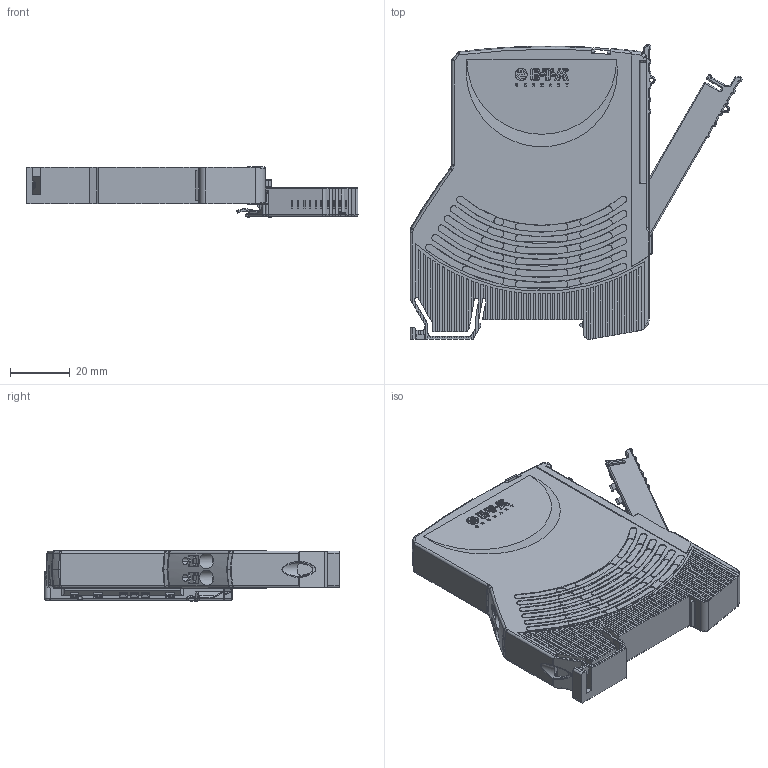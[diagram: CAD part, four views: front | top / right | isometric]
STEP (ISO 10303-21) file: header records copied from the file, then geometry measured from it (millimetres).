
FILE_DESCRIPTION((''),'2;1');
FILE_NAME('T-REX12D-TA2-1XX_ASM','2016-04-22T',('hroth'),(''),'PRO/ENGINEER BY PARAMETRIC TECHNOLOGY CORPORATION, 2014200','PRO/ENGINEER BY PARAMETRIC TECHNOLOGY CORPORATION, 2014200','');
FILE_SCHEMA(('AUTOMOTIVE_DESIGN { 1 0 10303 214 1 1 1 1 }'));
Products named in the file (4): T-REX12D-TA2-1XX_GEH; T-REX12-TXX_TASTER; T-REX12-TXX_HEB-SI2; T-REX12D-TA2-1XX_ASM
Assembly tree (5 placements, depth 2):
  T-REX12D-TA2-1XX_ASM
    T-REX12D-TA2-1XX_GEH
    T-REX12-TXX_TASTER  x2
    T-REX12-TXX_HEB-SI2  x2
Bounding box: 110.9 x 98.5 x 16.9 mm (x, y, z)
Volume: 80360.8 mm3; surface area: 30392.7 mm2
Topology: 5 solids, 5 shells, 2905 faces, 7913 edges, 5090 vertices
Faces by surface type: plane 1736, cylinder 856, bspline 113, torus 99, extrusion 41, sphere 30, cone 30
Entity records: 90249 total; most frequent: CARTESIAN_POINT 22302, ORIENTED_EDGE 13178, DIRECTION 12402, EDGE_CURVE 6589, VECTOR 4466, LINE 4425, VERTEX_POINT 4273, AXIS2_PLACEMENT_3D 3968
